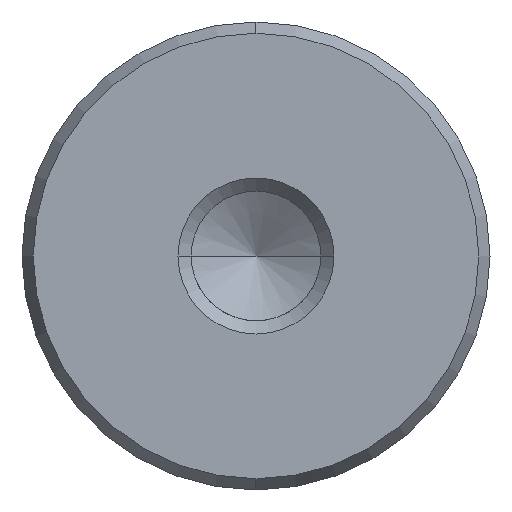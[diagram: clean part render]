
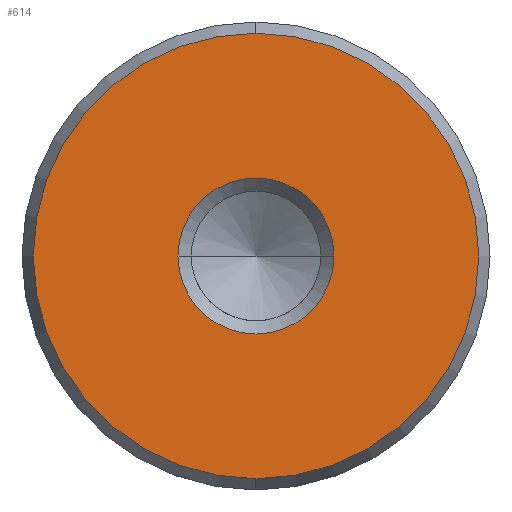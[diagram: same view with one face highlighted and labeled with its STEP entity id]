
A CAD part, left-side view. The second image highlights one B-rep face of the part: STEP entity #614.
In plain terms, the highlighted planar face has unit normal (-1, 0, 0).
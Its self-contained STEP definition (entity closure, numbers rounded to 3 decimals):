
#528=CARTESIAN_POINT('Vertex',(0.,0.,-11.423)) ;
#531=CARTESIAN_POINT('Axis2P3D Location',(0.,0.,0.)) ;
#535=CARTESIAN_POINT('Vertex',(0.,11.423,0.)) ;
#538=CARTESIAN_POINT('Axis2P3D Location',(0.,0.,0.)) ;
#542=CARTESIAN_POINT('Vertex',(0.,0.,11.423)) ;
#564=CARTESIAN_POINT('Axis2P3D Location',(0.,0.,0.)) ;
#568=CARTESIAN_POINT('Vertex',(0.,-11.423,0.)) ;
#571=CARTESIAN_POINT('Axis2P3D Location',(0.,0.,0.)) ;
#585=CARTESIAN_POINT('Axis2P3D Location',(0.,0.,0.)) ;
#596=CARTESIAN_POINT('Axis2P3D Location',(0.,0.,0.)) ;
#600=CARTESIAN_POINT('Vertex',(0.,4.,0.)) ;
#602=CARTESIAN_POINT('Vertex',(0.,-4.,0.)) ;
#605=CARTESIAN_POINT('Axis2P3D Location',(0.,0.,0.)) ;
#532=DIRECTION('Axis2P3D Direction',(1.,0.,-0.)) ;
#539=DIRECTION('Axis2P3D Direction',(1.,0.,-0.)) ;
#565=DIRECTION('Axis2P3D Direction',(1.,0.,-0.)) ;
#572=DIRECTION('Axis2P3D Direction',(1.,0.,-0.)) ;
#586=DIRECTION('Axis2P3D Direction',(1.,0.,-0.)) ;
#587=DIRECTION('Axis2P3D XDirection',(-0.,0.,-1.)) ;
#597=DIRECTION('Axis2P3D Direction',(1.,0.,-0.)) ;
#606=DIRECTION('Axis2P3D Direction',(1.,0.,-0.)) ;
#533=AXIS2_PLACEMENT_3D('Circle Axis2P3D',#531,#532,$) ;
#540=AXIS2_PLACEMENT_3D('Circle Axis2P3D',#538,#539,$) ;
#566=AXIS2_PLACEMENT_3D('Circle Axis2P3D',#564,#565,$) ;
#573=AXIS2_PLACEMENT_3D('Circle Axis2P3D',#571,#572,$) ;
#588=AXIS2_PLACEMENT_3D('Plane Axis2P3D',#585,#586,#587) ;
#598=AXIS2_PLACEMENT_3D('Circle Axis2P3D',#596,#597,$) ;
#607=AXIS2_PLACEMENT_3D('Circle Axis2P3D',#605,#606,$) ;
#591=ORIENTED_EDGE('',*,*,#537,.F.) ;
#592=ORIENTED_EDGE('',*,*,#575,.F.) ;
#593=ORIENTED_EDGE('',*,*,#570,.F.) ;
#594=ORIENTED_EDGE('',*,*,#544,.F.) ;
#611=ORIENTED_EDGE('',*,*,#604,.T.) ;
#612=ORIENTED_EDGE('',*,*,#609,.T.) ;
#613=FACE_BOUND('',#610,.T.) ;
#614=ADVANCED_FACE('720-24x160',(#595,#613),#589,.F.) ;
#534=CIRCLE('generated circle',#533,11.423) ;
#541=CIRCLE('generated circle',#540,11.423) ;
#567=CIRCLE('generated circle',#566,11.423) ;
#574=CIRCLE('generated circle',#573,11.423) ;
#599=CIRCLE('generated circle',#598,4.) ;
#608=CIRCLE('generated circle',#607,4.) ;
#537=EDGE_CURVE('',#529,#536,#534,.T.) ;
#544=EDGE_CURVE('',#536,#543,#541,.T.) ;
#570=EDGE_CURVE('',#543,#569,#567,.T.) ;
#575=EDGE_CURVE('',#569,#529,#574,.T.) ;
#604=EDGE_CURVE('',#601,#603,#599,.T.) ;
#609=EDGE_CURVE('',#603,#601,#608,.T.) ;
#590=EDGE_LOOP('',(#591,#592,#593,#594)) ;
#610=EDGE_LOOP('',(#611,#612)) ;
#595=FACE_OUTER_BOUND('',#590,.T.) ;
#589=PLANE('Plane',#588) ;
#529=VERTEX_POINT('',#528) ;
#536=VERTEX_POINT('',#535) ;
#543=VERTEX_POINT('',#542) ;
#569=VERTEX_POINT('',#568) ;
#601=VERTEX_POINT('',#600) ;
#603=VERTEX_POINT('',#602) ;
